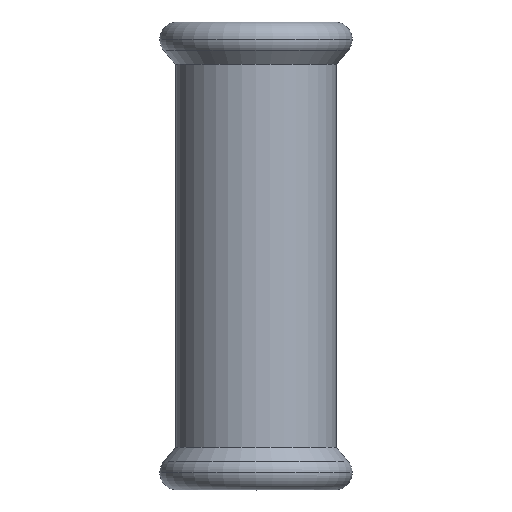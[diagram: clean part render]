
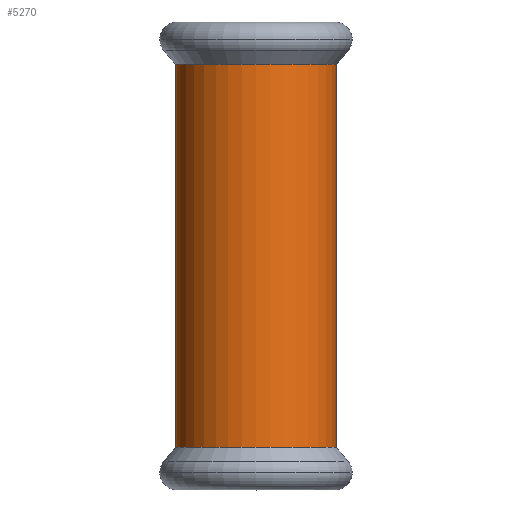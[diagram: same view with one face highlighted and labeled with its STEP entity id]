
A CAD part, top view. The second image highlights one B-rep face of the part: STEP entity #5270.
In plain terms, the highlighted cylindrical face has radius 15.65 mm (diameter 31.3 mm), a partial arc.
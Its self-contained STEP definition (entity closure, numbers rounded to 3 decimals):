
#540=CARTESIAN_POINT('',(-388.656,59.438,0.));
#550=VERTEX_POINT('',#540);
#730=CARTESIAN_POINT('',(-419.956,59.438,
0.));
#740=VERTEX_POINT('',#730);
#770=CARTESIAN_POINT('',(-404.306,59.438,0.));
#780=DIRECTION('',(0.,1.,0.));
#790=DIRECTION('',(-1.,0.,0.));
#800=AXIS2_PLACEMENT_3D('',#770,#780,#790);
#810=CIRCLE('',#800,15.65);
#870=CARTESIAN_POINT('',(-404.306,51.632,0.));
#880=DIRECTION('',(0.,-1.,0.));
#890=DIRECTION('',(-1.,0.,0.));
#900=AXIS2_PLACEMENT_3D('',#870,#880,#890);
#910=CYLINDRICAL_SURFACE('',#900,15.65);
#920=CARTESIAN_POINT('',(-388.656,51.632,
0.));
#930=DIRECTION('',(0.,-1.,0.));
#940=VECTOR('',#930,1.);
#950=LINE('',#920,#940);
#960=CARTESIAN_POINT('',(-388.656,-15.091,
0.));
#970=VERTEX_POINT('',#960);
#980=EDGE_CURVE('',#550,#970,#950,.T.);
#1010=CARTESIAN_POINT('',(-419.956,51.632,0.));
#1020=DIRECTION('',(0.,-1.,0.));
#1030=VECTOR('',#1020,1.);
#1040=LINE('',#1010,#1030);
#1050=CARTESIAN_POINT('',(-419.956,-15.091,0.));
#1060=VERTEX_POINT('',#1050);
#1070=EDGE_CURVE('',#740,#1060,#1040,.T.);
#1090=CARTESIAN_POINT('',(-404.306,-15.091,0.));
#1100=DIRECTION('',(0.,-1.,0.));
#1110=DIRECTION('',(1.,0.,0.));
#1120=AXIS2_PLACEMENT_3D('',#1090,#1100,#1110);
#1130=CIRCLE('',#1120,15.65);
#5110=EDGE_CURVE('',#970,#1060,#1130,.T.);
#5200=EDGE_CURVE('',#740,#550,#810,.T.);
#5210=ORIENTED_EDGE('',*,*,#5200,.F.);
#5220=ORIENTED_EDGE('',*,*,#980,.F.);
#5230=ORIENTED_EDGE('',*,*,#5110,.F.);
#5240=ORIENTED_EDGE('',*,*,#1070,.T.);
#5250=EDGE_LOOP('',(#5240,#5230,#5220,#5210));
#5260=FACE_OUTER_BOUND('',#5250,.T.);
#5270=ADVANCED_FACE('',(#5260),#910,.T.);
